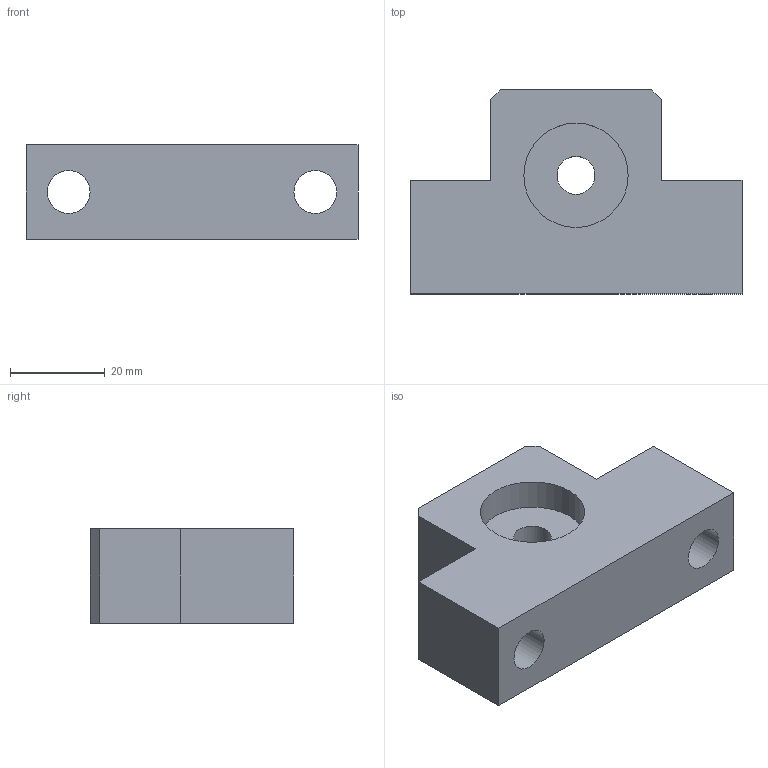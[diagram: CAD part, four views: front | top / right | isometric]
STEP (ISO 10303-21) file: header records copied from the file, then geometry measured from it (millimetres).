
FILE_DESCRIPTION(/* description */ (''),/* implementation_level */ '2;1');
FILE_NAME(/* name */ 'C:\Users\tenki620635\Desktop\官網\圖面\軸承座\3D\setp檔\EF10.stp',/* time_stamp */ '2020-11-20T18:08:41+08:00',/* author */ ('tenki620635'),/* organization */ (''),/* preprocessor_version */ 'ST-DEVELOPER v15.2',/* originating_system */ 'Autodesk Inventor 2014',/* authorisation */ '');
FILE_SCHEMA (('AUTOMOTIVE_DESIGN { 1 0 10303 214 3 1 1 }'));
Length unit declared in the file: millimetre
Products named in the file (1): EF10
Bounding box: 70 x 43 x 20 mm (x, y, z)
Volume: 38852.8 mm3; surface area: 11269.7 mm2
Topology: 1 solids, 1 shells, 19 faces, 47 edges, 32 vertices
Faces by surface type: plane 14, cylinder 5
Full cylindrical faces by diameter (mm): 8 x1, 9 x2, 22 x2
Entity records: 557 total; most frequent: DIRECTION 90, CARTESIAN_POINT 90, ORIENTED_EDGE 80, EDGE_CURVE 40, EDGE_LOOP 32, LINE 30, VECTOR 30, VERTEX_POINT 30
